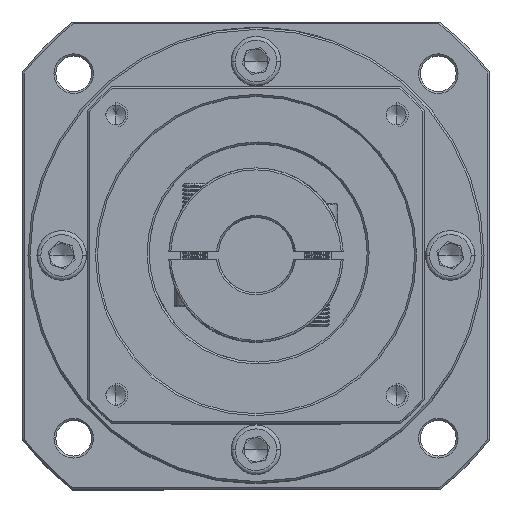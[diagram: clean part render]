
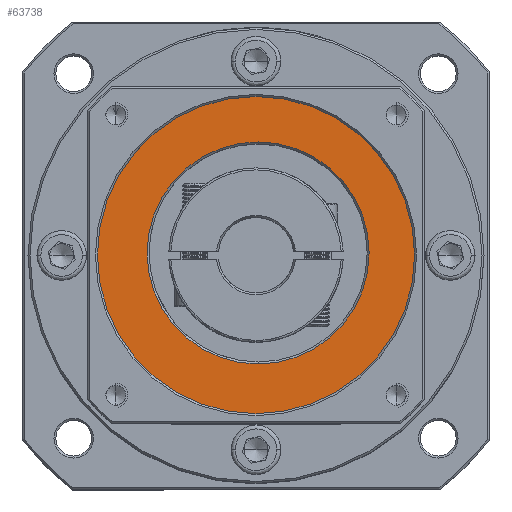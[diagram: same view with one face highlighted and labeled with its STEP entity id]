
A CAD part, top view. The second image highlights one B-rep face of the part: STEP entity #63738.
In plain terms, the highlighted planar face has unit normal (0, 0, 1).
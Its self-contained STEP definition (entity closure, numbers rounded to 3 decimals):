
#735 = EDGE_CURVE ( 'NONE', #104788, #10058, #38123, .T. ) ;
#3005 = EDGE_CURVE ( 'NONE', #10058, #104788, #74321, .T. ) ;
#4529 = FACE_OUTER_BOUND ( 'NONE', #15128, .T. ) ;
#4590 = DIRECTION ( 'NONE',  ( 0., -1., 0. ) ) ;
#6202 = CARTESIAN_POINT ( 'NONE',  ( 29.8, 83.753, 9.23 ) ) ;
#10058 = VERTEX_POINT ( 'NONE', #122427 ) ;
#11268 = CARTESIAN_POINT ( 'NONE',  ( 29.8, 111.753, 9.23 ) ) ;
#15128 = EDGE_LOOP ( 'NONE', ( #34735, #98306 ) ) ;
#16023 = CARTESIAN_POINT ( 'NONE',  ( 29.266, 111.211, 9.23 ) ) ;
#16546 = DIRECTION ( 'NONE',  ( 0., -1., 0. ) ) ;
#24936 = VERTEX_POINT ( 'NONE', #6202 ) ;
#25377 = DIRECTION ( 'NONE',  ( 0., -1., 0. ) ) ;
#26749 = DIRECTION ( 'NONE',  ( 0., 0., 1. ) ) ;
#31582 = DIRECTION ( 'NONE',  ( 0., 0., -1. ) ) ;
#34735 = ORIENTED_EDGE ( 'NONE', *, *, #735, .T. ) ;
#35020 = CIRCLE ( 'NONE', #117172, 28. ) ;
#38123 = CIRCLE ( 'NONE', #41585, 40. ) ;
#40010 = CARTESIAN_POINT ( 'NONE',  ( 29.8, 139.753, 9.23 ) ) ;
#40841 = FACE_BOUND ( 'NONE', #88782, .T. ) ;
#41161 = ORIENTED_EDGE ( 'NONE', *, *, #70915, .T. ) ;
#41585 = AXIS2_PLACEMENT_3D ( 'NONE', #45214, #26749, #16546 ) ;
#45214 = CARTESIAN_POINT ( 'NONE',  ( 29.266, 111.211, 9.23 ) ) ;
#63738 = ADVANCED_FACE ( 'NONE', ( #4529, #40841 ), #87053, .T. ) ;
#70915 = EDGE_CURVE ( 'NONE', #106080, #24936, #114561, .T. ) ;
#73809 = DIRECTION ( 'NONE',  ( 0., 0., 1. ) ) ;
#74321 = CIRCLE ( 'NONE', #96770, 40. ) ;
#76873 = DIRECTION ( 'NONE',  ( 0., 0., 1. ) ) ;
#87053 = PLANE ( 'NONE',  #93093 ) ;
#88782 = EDGE_LOOP ( 'NONE', ( #113834, #41161 ) ) ;
#91654 = DIRECTION ( 'NONE',  ( 0., -1., 0. ) ) ;
#93093 = AXIS2_PLACEMENT_3D ( 'NONE', #16023, #76873, #25377 ) ;
#96770 = AXIS2_PLACEMENT_3D ( 'NONE', #123658, #73809, #4590 ) ;
#98306 = ORIENTED_EDGE ( 'NONE', *, *, #3005, .T. ) ;
#102148 = DIRECTION ( 'NONE',  ( 0., -1., 0. ) ) ;
#104788 = VERTEX_POINT ( 'NONE', #112890 ) ;
#106080 = VERTEX_POINT ( 'NONE', #40010 ) ;
#106870 = AXIS2_PLACEMENT_3D ( 'NONE', #111568, #122118, #91654 ) ;
#111568 = CARTESIAN_POINT ( 'NONE',  ( 29.8, 111.753, 9.23 ) ) ;
#112890 = CARTESIAN_POINT ( 'NONE',  ( 29.266, 71.211, 9.23 ) ) ;
#113834 = ORIENTED_EDGE ( 'NONE', *, *, #125062, .T. ) ;
#114561 = CIRCLE ( 'NONE', #106870, 28. ) ;
#117172 = AXIS2_PLACEMENT_3D ( 'NONE', #11268, #31582, #102148 ) ;
#122118 = DIRECTION ( 'NONE',  ( 0., 0., -1. ) ) ;
#122427 = CARTESIAN_POINT ( 'NONE',  ( 29.266, 151.211, 9.23 ) ) ;
#123658 = CARTESIAN_POINT ( 'NONE',  ( 29.266, 111.211, 9.23 ) ) ;
#125062 = EDGE_CURVE ( 'NONE', #24936, #106080, #35020, .T. ) ;
